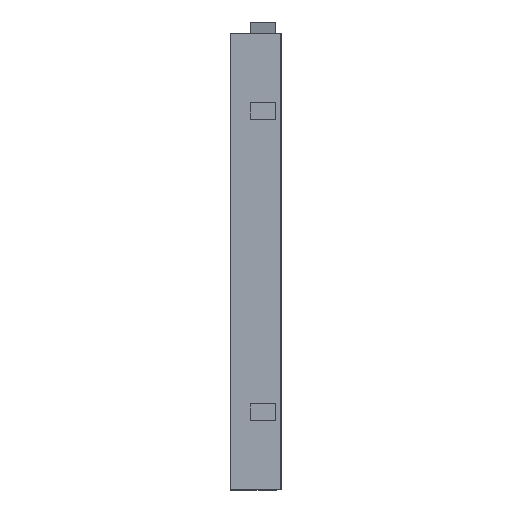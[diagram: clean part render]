
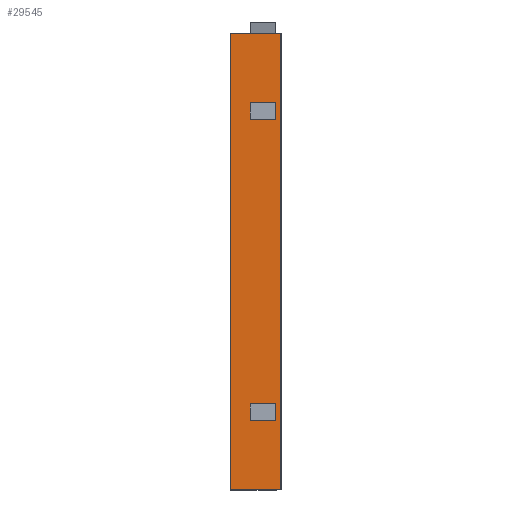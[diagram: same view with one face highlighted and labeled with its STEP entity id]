
A CAD part, left-side view. The second image highlights one B-rep face of the part: STEP entity #29545.
In plain terms, the highlighted planar face has unit normal (-1, 0, 0).
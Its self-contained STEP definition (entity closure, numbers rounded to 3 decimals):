
#174 = VECTOR ( 'NONE', #4182, 1000. ) ;
#565 = VECTOR ( 'NONE', #47002, 1000. ) ;
#2050 = CARTESIAN_POINT ( 'NONE',  ( -27., 5.6, -28. ) ) ;
#2165 = DIRECTION ( 'NONE',  ( 0., 0., 1. ) ) ;
#2308 = LINE ( 'NONE', #2050, #46846 ) ;
#4182 = DIRECTION ( 'NONE',  ( 0., 0., -1. ) ) ;
#4743 = DIRECTION ( 'NONE',  ( 1., 0., 0. ) ) ;
#5718 = FACE_BOUND ( 'NONE', #58656, .T. ) ;
#6378 = VERTEX_POINT ( 'NONE', #94173 ) ;
#6696 = EDGE_LOOP ( 'NONE', ( #67455, #26998, #89615, #79474 ) ) ;
#11305 = VERTEX_POINT ( 'NONE', #64555 ) ;
#12013 = ORIENTED_EDGE ( 'NONE', *, *, #21159, .F. ) ;
#12097 = LINE ( 'NONE', #82260, #104060 ) ;
#14911 = CARTESIAN_POINT ( 'NONE',  ( -27., 5.6, 26.072 ) ) ;
#14973 = EDGE_CURVE ( 'NONE', #94563, #58263, #2308, .T. ) ;
#15871 = LINE ( 'NONE', #48373, #60329 ) ;
#16323 = CARTESIAN_POINT ( 'NONE',  ( -27., 5.6, 26.072 ) ) ;
#16653 = CARTESIAN_POINT ( 'NONE',  ( -27., 0.1, 41. ) ) ;
#19873 = VECTOR ( 'NONE', #113146, 1000. ) ;
#20198 = CARTESIAN_POINT ( 'NONE',  ( -27., 1.1, 26.072 ) ) ;
#21159 = EDGE_CURVE ( 'NONE', #26207, #106380, #53173, .T. ) ;
#22110 = VECTOR ( 'NONE', #76763, 1000. ) ;
#24852 = LINE ( 'NONE', #14911, #22110 ) ;
#26207 = VERTEX_POINT ( 'NONE', #81270 ) ;
#26998 = ORIENTED_EDGE ( 'NONE', *, *, #50382, .F. ) ;
#27081 = CARTESIAN_POINT ( 'NONE',  ( -27., 5.6, 26.072 ) ) ;
#27261 = ORIENTED_EDGE ( 'NONE', *, *, #70295, .F. ) ;
#28131 = EDGE_CURVE ( 'NONE', #6378, #81225, #95391, .T. ) ;
#28522 = VERTEX_POINT ( 'NONE', #16653 ) ;
#28707 = CARTESIAN_POINT ( 'NONE',  ( -27., 0.1, -41. ) ) ;
#29545 = ADVANCED_FACE ( 'NONE', ( #5718, #73917, #97746 ), #66188, .F. ) ;
#31024 = EDGE_CURVE ( 'NONE', #91224, #76169, #12097, .T. ) ;
#32199 = EDGE_CURVE ( 'NONE', #43988, #33994, #68354, .T. ) ;
#33994 = VERTEX_POINT ( 'NONE', #94927 ) ;
#35169 = ORIENTED_EDGE ( 'NONE', *, *, #83372, .T. ) ;
#39684 = ORIENTED_EDGE ( 'NONE', *, *, #64181, .F. ) ;
#41084 = CARTESIAN_POINT ( 'NONE',  ( -27., 1.1, 41. ) ) ;
#43988 = VERTEX_POINT ( 'NONE', #111163 ) ;
#44453 = VECTOR ( 'NONE', #90633, 1000. ) ;
#46846 = VECTOR ( 'NONE', #82648, 1000. ) ;
#47002 = DIRECTION ( 'NONE',  ( 0., 0., -1. ) ) ;
#48373 = CARTESIAN_POINT ( 'NONE',  ( -27., 1.1, -41. ) ) ;
#50329 = VECTOR ( 'NONE', #89421, 1000. ) ;
#50382 = EDGE_CURVE ( 'NONE', #76169, #28522, #80537, .T. ) ;
#51608 = ORIENTED_EDGE ( 'NONE', *, *, #76511, .T. ) ;
#53173 = LINE ( 'NONE', #27081, #50329 ) ;
#57037 = CARTESIAN_POINT ( 'NONE',  ( -27., 5.6, -28. ) ) ;
#58023 = CARTESIAN_POINT ( 'NONE',  ( -27., 1.1, -41. ) ) ;
#58033 = DIRECTION ( 'NONE',  ( 0., -1., 0. ) ) ;
#58263 = VERTEX_POINT ( 'NONE', #57037 ) ;
#58656 = EDGE_LOOP ( 'NONE', ( #27261, #12013, #35169, #72867 ) ) ;
#60329 = VECTOR ( 'NONE', #110471, 1000. ) ;
#63852 = VECTOR ( 'NONE', #2165, 1000. ) ;
#64181 = EDGE_CURVE ( 'NONE', #58263, #33994, #87266, .T. ) ;
#64555 = CARTESIAN_POINT ( 'NONE',  ( -27., 0.1, -41. ) ) ;
#65663 = CARTESIAN_POINT ( 'NONE',  ( -27., 9.1, 41. ) ) ;
#66188 = PLANE ( 'NONE',  #75558 ) ;
#66956 = DIRECTION ( 'NONE',  ( 0., 0., -1. ) ) ;
#67157 = LINE ( 'NONE', #104158, #19873 ) ;
#67455 = ORIENTED_EDGE ( 'NONE', *, *, #105772, .T. ) ;
#68354 = LINE ( 'NONE', #75767, #174 ) ;
#70295 = EDGE_CURVE ( 'NONE', #106380, #81225, #24852, .T. ) ;
#72867 = ORIENTED_EDGE ( 'NONE', *, *, #28131, .T. ) ;
#73917 = FACE_BOUND ( 'NONE', #86635, .T. ) ;
#75558 = AXIS2_PLACEMENT_3D ( 'NONE', #58023, #4743, #66956 ) ;
#75767 = CARTESIAN_POINT ( 'NONE',  ( -27., 1.1, -28. ) ) ;
#76169 = VERTEX_POINT ( 'NONE', #65663 ) ;
#76511 = EDGE_CURVE ( 'NONE', #94563, #43988, #91932, .T. ) ;
#76763 = DIRECTION ( 'NONE',  ( 0., -1., 0. ) ) ;
#76863 = CARTESIAN_POINT ( 'NONE',  ( -27., 5.6, -26.072 ) ) ;
#78790 = ORIENTED_EDGE ( 'NONE', *, *, #32199, .T. ) ;
#79474 = ORIENTED_EDGE ( 'NONE', *, *, #110139, .T. ) ;
#80537 = LINE ( 'NONE', #41084, #104340 ) ;
#81225 = VERTEX_POINT ( 'NONE', #110267 ) ;
#81270 = CARTESIAN_POINT ( 'NONE',  ( -27., 5.6, 28. ) ) ;
#81589 = CARTESIAN_POINT ( 'NONE',  ( -27., 5.6, -26.072 ) ) ;
#82260 = CARTESIAN_POINT ( 'NONE',  ( -27., 9.1, 41. ) ) ;
#82648 = DIRECTION ( 'NONE',  ( 0., 0., -1. ) ) ;
#83372 = EDGE_CURVE ( 'NONE', #26207, #6378, #67157, .T. ) ;
#84485 = VECTOR ( 'NONE', #58033, 1000. ) ;
#86635 = EDGE_LOOP ( 'NONE', ( #39684, #113185, #51608, #78790 ) ) ;
#87266 = LINE ( 'NONE', #111573, #84485 ) ;
#87649 = LINE ( 'NONE', #28707, #63852 ) ;
#89421 = DIRECTION ( 'NONE',  ( 0., 0., -1. ) ) ;
#89615 = ORIENTED_EDGE ( 'NONE', *, *, #31024, .F. ) ;
#90633 = DIRECTION ( 'NONE',  ( 0., -1., 0. ) ) ;
#91224 = VERTEX_POINT ( 'NONE', #107086 ) ;
#91932 = LINE ( 'NONE', #81589, #44453 ) ;
#94173 = CARTESIAN_POINT ( 'NONE',  ( -27., 1.1, 28. ) ) ;
#94482 = DIRECTION ( 'NONE',  ( 0., -1., 0. ) ) ;
#94563 = VERTEX_POINT ( 'NONE', #76863 ) ;
#94927 = CARTESIAN_POINT ( 'NONE',  ( -27., 1.1, -28. ) ) ;
#95391 = LINE ( 'NONE', #20198, #565 ) ;
#97746 = FACE_OUTER_BOUND ( 'NONE', #6696, .T. ) ;
#104060 = VECTOR ( 'NONE', #109266, 1000. ) ;
#104158 = CARTESIAN_POINT ( 'NONE',  ( -27., 5.6, 28. ) ) ;
#104340 = VECTOR ( 'NONE', #94482, 1000. ) ;
#105772 = EDGE_CURVE ( 'NONE', #11305, #28522, #87649, .T. ) ;
#106380 = VERTEX_POINT ( 'NONE', #16323 ) ;
#107086 = CARTESIAN_POINT ( 'NONE',  ( -27., 9.1, -41. ) ) ;
#109266 = DIRECTION ( 'NONE',  ( 0., 0., 1. ) ) ;
#110139 = EDGE_CURVE ( 'NONE', #91224, #11305, #15871, .T. ) ;
#110267 = CARTESIAN_POINT ( 'NONE',  ( -27., 1.1, 26.072 ) ) ;
#110471 = DIRECTION ( 'NONE',  ( 0., -1., 0. ) ) ;
#111163 = CARTESIAN_POINT ( 'NONE',  ( -27., 1.1, -26.072 ) ) ;
#111573 = CARTESIAN_POINT ( 'NONE',  ( -27., 5.6, -28. ) ) ;
#113146 = DIRECTION ( 'NONE',  ( 0., -1., 0. ) ) ;
#113185 = ORIENTED_EDGE ( 'NONE', *, *, #14973, .F. ) ;
